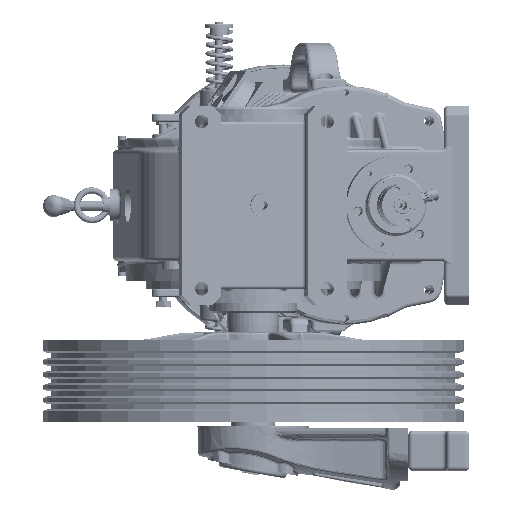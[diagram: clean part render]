
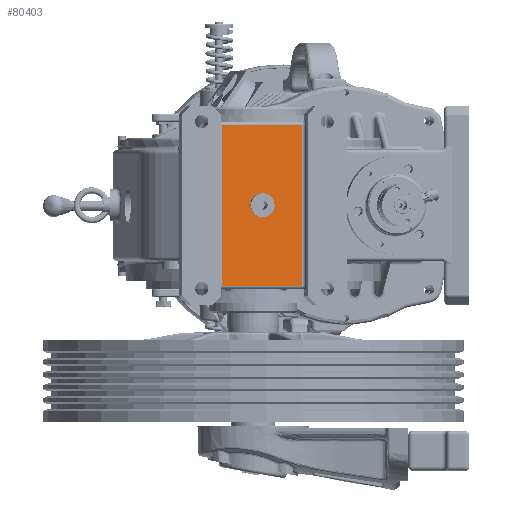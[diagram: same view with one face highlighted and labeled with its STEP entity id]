
A CAD part, front view. The second image highlights one B-rep face of the part: STEP entity #80403.
In plain terms, the highlighted planar face has unit normal (0.174, -0.985, 0).
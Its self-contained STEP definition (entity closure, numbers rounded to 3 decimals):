
#38 = VERTEX_POINT ( 'NONE', #50099 ) ;
#5110 = LINE ( 'NONE', #182009, #39224 ) ;
#6621 = CIRCLE ( 'NONE', #149846, 15. ) ;
#7656 = FACE_BOUND ( 'NONE', #131260, .T. ) ;
#12882 = DIRECTION ( 'NONE',  ( 0., 0., -1. ) ) ;
#14086 = ORIENTED_EDGE ( 'NONE', *, *, #133601, .T. ) ;
#25456 = ORIENTED_EDGE ( 'NONE', *, *, #84633, .F. ) ;
#32697 = DIRECTION ( 'NONE',  ( 0.174, -0.985, 0. ) ) ;
#33963 = DIRECTION ( 'NONE',  ( 0.985, 0.174, 0. ) ) ;
#34858 = CARTESIAN_POINT ( 'NONE',  ( -209.031, -410.957, 164.748 ) ) ;
#36272 = VECTOR ( 'NONE', #91744, 1000. ) ;
#36329 = CARTESIAN_POINT ( 'NONE',  ( -144.034, -399.497, 63.748 ) ) ;
#37954 = CARTESIAN_POINT ( 'NONE',  ( -108.581, -393.245, 164.748 ) ) ;
#39224 = VECTOR ( 'NONE', #168719, 1000. ) ;
#41564 = DIRECTION ( 'NONE',  ( 0., 0., 1. ) ) ;
#49527 = CARTESIAN_POINT ( 'NONE',  ( -139.11, -398.628, -37.252 ) ) ;
#50099 = CARTESIAN_POINT ( 'NONE',  ( -209.031, -410.957, -37.252 ) ) ;
#58032 = VERTEX_POINT ( 'NONE', #69324 ) ;
#62262 = VERTEX_POINT ( 'NONE', #34858 ) ;
#65409 = ORIENTED_EDGE ( 'NONE', *, *, #212807, .T. ) ;
#67059 = ORIENTED_EDGE ( 'NONE', *, *, #129273, .T. ) ;
#69324 = CARTESIAN_POINT ( 'NONE',  ( -173.578, -404.706, 63.748 ) ) ;
#80403 = ADVANCED_FACE ( 'NONE', ( #7656, #223023 ), #84536, .T. ) ;
#84536 = PLANE ( 'NONE',  #140914 ) ;
#84633 = EDGE_CURVE ( 'NONE', #219790, #58032, #6621, .T. ) ;
#91744 = DIRECTION ( 'NONE',  ( 0.985, 0.174, 0. ) ) ;
#99946 = EDGE_CURVE ( 'NONE', #220906, #62262, #5110, .T. ) ;
#102245 = EDGE_LOOP ( 'NONE', ( #127096, #65409, #67059, #14086 ) ) ;
#127096 = ORIENTED_EDGE ( 'NONE', *, *, #99946, .T. ) ;
#129273 = EDGE_CURVE ( 'NONE', #38, #139485, #144404, .T. ) ;
#131260 = EDGE_LOOP ( 'NONE', ( #251706, #25456 ) ) ;
#132109 = AXIS2_PLACEMENT_3D ( 'NONE', #171037, #32697, #33963 ) ;
#133601 = EDGE_CURVE ( 'NONE', #139485, #220906, #159425, .T. ) ;
#139485 = VERTEX_POINT ( 'NONE', #190847 ) ;
#140914 = AXIS2_PLACEMENT_3D ( 'NONE', #243460, #147271, #221741 ) ;
#144404 = LINE ( 'NONE', #49527, #36272 ) ;
#147271 = DIRECTION ( 'NONE',  ( 0.174, -0.985, 0. ) ) ;
#149846 = AXIS2_PLACEMENT_3D ( 'NONE', #162918, #167954, #183466 ) ;
#159425 = LINE ( 'NONE', #177415, #250324 ) ;
#162918 = CARTESIAN_POINT ( 'NONE',  ( -158.806, -402.101, 63.748 ) ) ;
#167954 = DIRECTION ( 'NONE',  ( 0.174, -0.985, 0. ) ) ;
#168719 = DIRECTION ( 'NONE',  ( -0.985, -0.174, 0. ) ) ;
#171037 = CARTESIAN_POINT ( 'NONE',  ( -158.806, -402.101, 63.748 ) ) ;
#177415 = CARTESIAN_POINT ( 'NONE',  ( -108.581, -393.245, 164.748 ) ) ;
#182009 = CARTESIAN_POINT ( 'NONE',  ( -139.11, -398.628, 164.748 ) ) ;
#183466 = DIRECTION ( 'NONE',  ( 0.985, 0.174, 0. ) ) ;
#188510 = CARTESIAN_POINT ( 'NONE',  ( -209.031, -410.957, -37.252 ) ) ;
#190847 = CARTESIAN_POINT ( 'NONE',  ( -108.581, -393.245, -37.252 ) ) ;
#195342 = VECTOR ( 'NONE', #12882, 1000. ) ;
#212807 = EDGE_CURVE ( 'NONE', #62262, #38, #247446, .T. ) ;
#219790 = VERTEX_POINT ( 'NONE', #36329 ) ;
#220906 = VERTEX_POINT ( 'NONE', #37954 ) ;
#221741 = DIRECTION ( 'NONE',  ( 0.985, 0.174, 0. ) ) ;
#223023 = FACE_OUTER_BOUND ( 'NONE', #102245, .T. ) ;
#234468 = CIRCLE ( 'NONE', #132109, 15. ) ;
#243460 = CARTESIAN_POINT ( 'NONE',  ( -139.11, -398.628, -6.252 ) ) ;
#247446 = LINE ( 'NONE', #188510, #195342 ) ;
#250324 = VECTOR ( 'NONE', #41564, 1000. ) ;
#251706 = ORIENTED_EDGE ( 'NONE', *, *, #251920, .F. ) ;
#251920 = EDGE_CURVE ( 'NONE', #58032, #219790, #234468, .T. ) ;
